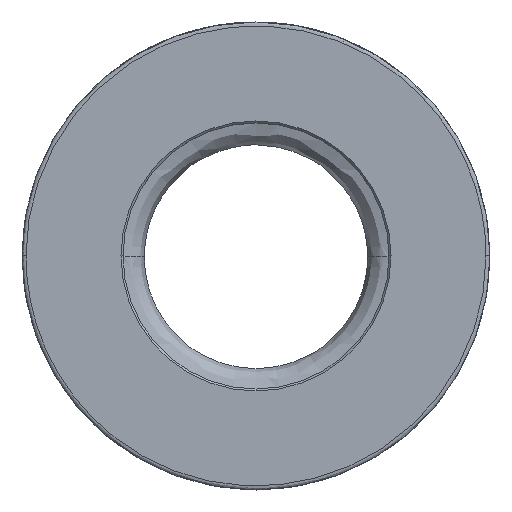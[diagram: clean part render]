
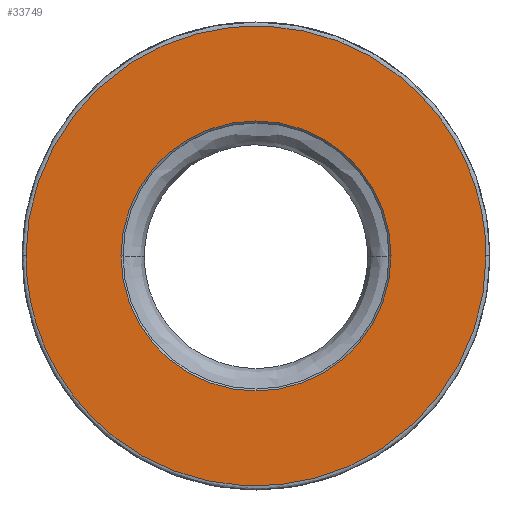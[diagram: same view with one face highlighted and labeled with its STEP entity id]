
A CAD part, top view. The second image highlights one B-rep face of the part: STEP entity #33749.
In plain terms, the highlighted planar face has unit normal (0, 0, 1).
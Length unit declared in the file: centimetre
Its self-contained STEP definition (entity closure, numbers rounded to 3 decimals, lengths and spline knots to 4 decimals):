
#310 = CARTESIAN_POINT ( 'NONE',  ( 1.4732, -2.9464, 0. ) ) ;
#321 = CARTESIAN_POINT ( 'NONE',  ( 1.4732, 0., 0. ) ) ;
#324 = CARTESIAN_POINT ( 'NONE',  ( -1.4732, -2.9464, 0. ) ) ;
#325 = CARTESIAN_POINT ( 'NONE',  ( -1.4732, 0., 0. ) ) ;
#2161 = CARTESIAN_POINT ( 'NONE',  ( 0.8649, 0., 0. ) ) ;
#2441 = CARTESIAN_POINT ( 'NONE',  ( -1.4732, 0., 0. ) ) ;
#2476 = CARTESIAN_POINT ( 'NONE',  ( 1.4732, 0., 0. ) ) ;
#2582 = CARTESIAN_POINT ( 'NONE',  ( -0.8649, 0., 0. ) ) ;
#7678 = AXIS2_PLACEMENT_3D ( 'NONE', #29019, #29028, #29029 ) ;
#13218 = FACE_OUTER_BOUND ( 'NONE', #30538, .T. ) ;
#13233 = FACE_BOUND ( 'NONE', #30655, .T. ) ;
#16457 =( BOUNDED_CURVE ( )  B_SPLINE_CURVE ( 3, ( #24717, #24716, #24730, #24731 ),
 .UNSPECIFIED., .F., .T. ) 
 B_SPLINE_CURVE_WITH_KNOTS ( ( 4, 4 ),
 ( 0.5, 1. ),
 .UNSPECIFIED. ) 
 CURVE ( )  GEOMETRIC_REPRESENTATION_ITEM ( )  RATIONAL_B_SPLINE_CURVE ( ( 1., 0.333, 0.333, 1. ) ) 
 REPRESENTATION_ITEM ( '' )  );
#16656 = DIRECTION ( 'NONE',  ( 1., 0., 0. ) ) ;
#16660 = DIRECTION ( 'NONE',  ( 0., 0., -1. ) ) ;
#16665 = CARTESIAN_POINT ( 'NONE',  ( 0., 0., 0. ) ) ;
#16789 = DIRECTION ( 'NONE',  ( 1., 0., 0. ) ) ;
#16790 = CARTESIAN_POINT ( 'NONE',  ( 0., 0., 0. ) ) ;
#16795 = DIRECTION ( 'NONE',  ( 0., 0., -1. ) ) ;
#18365 =( BOUNDED_CURVE ( )  B_SPLINE_CURVE ( 3, ( #321, #310, #324, #325 ),
 .UNSPECIFIED., .F., .T. ) 
 B_SPLINE_CURVE_WITH_KNOTS ( ( 4, 4 ),
 ( 0., 0.5 ),
 .UNSPECIFIED. ) 
 CURVE ( )  GEOMETRIC_REPRESENTATION_ITEM ( )  RATIONAL_B_SPLINE_CURVE ( ( 1., 0.333, 0.333, 1. ) ) 
 REPRESENTATION_ITEM ( '' )  );
#24716 = CARTESIAN_POINT ( 'NONE',  ( -1.4732, 2.9464, 0. ) ) ;
#24717 = CARTESIAN_POINT ( 'NONE',  ( -1.4732, 0., 0. ) ) ;
#24730 = CARTESIAN_POINT ( 'NONE',  ( 1.4732, 2.9464, 0. ) ) ;
#24731 = CARTESIAN_POINT ( 'NONE',  ( 1.4732, 0., 0. ) ) ;
#26737 = VERTEX_POINT ( 'NONE', #2161 ) ;
#26752 = VERTEX_POINT ( 'NONE', #2476 ) ;
#26773 = VERTEX_POINT ( 'NONE', #2441 ) ;
#27192 = ORIENTED_EDGE ( 'NONE', *, *, #32089, .T. ) ;
#27535 = ORIENTED_EDGE ( 'NONE', *, *, #32937, .F. ) ;
#27654 = ORIENTED_EDGE ( 'NONE', *, *, #32156, .T. ) ;
#27783 = ORIENTED_EDGE ( 'NONE', *, *, #32565, .F. ) ;
#29019 = CARTESIAN_POINT ( 'NONE',  ( 0.8522, 0., 0. ) ) ;
#29023 = PLANE ( 'NONE',  #7678 ) ;
#29028 = DIRECTION ( 'NONE',  ( 0., 0., 1. ) ) ;
#29029 = DIRECTION ( 'NONE',  ( 1., 0., 0. ) ) ;
#30538 = EDGE_LOOP ( 'NONE', ( #27783, #27535 ) ) ;
#30655 = EDGE_LOOP ( 'NONE', ( #27192, #27654 ) ) ;
#30699 = VERTEX_POINT ( 'NONE', #2582 ) ;
#31292 = CIRCLE ( 'NONE', #32464, 0.8649 ) ;
#31758 = CIRCLE ( 'NONE', #32424, 0.8649 ) ;
#32089 = EDGE_CURVE ( 'NONE', #26737, #30699, #31292, .T. ) ;
#32156 = EDGE_CURVE ( 'NONE', #30699, #26737, #31758, .T. ) ;
#32424 = AXIS2_PLACEMENT_3D ( 'NONE', #16790, #16795, #16789 ) ;
#32464 = AXIS2_PLACEMENT_3D ( 'NONE', #16665, #16660, #16656 ) ;
#32565 = EDGE_CURVE ( 'NONE', #26752, #26773, #18365, .T. ) ;
#32937 = EDGE_CURVE ( 'NONE', #26773, #26752, #16457, .T. ) ;
#33749 = ADVANCED_FACE ( 'NONE', ( #13218, #13233 ), #29023, .T. ) ;
